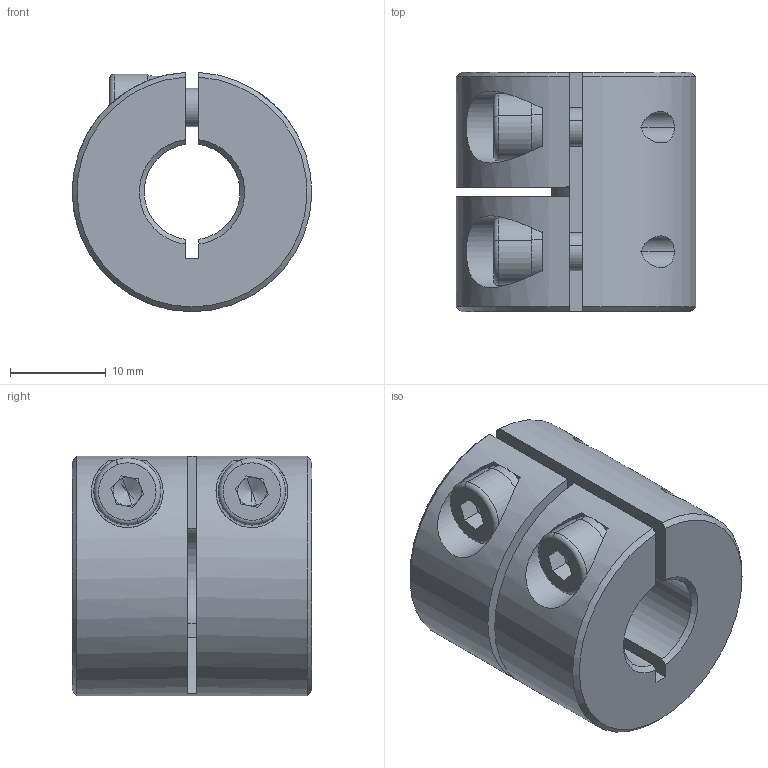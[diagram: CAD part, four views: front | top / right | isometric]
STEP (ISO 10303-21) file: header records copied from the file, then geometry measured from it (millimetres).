
FILE_DESCRIPTION (( 'STEP AP203' ), '1' );
FILE_NAME ('LL-B-D25L25-10-10.STEP', '2021-11-05T06:39:01', ( '' ), ( '' ), 'SwSTEP 2.0', 'SolidWorks 2018', '' );
FILE_SCHEMA (( 'CONFIG_CONTROL_DESIGN' ));
Length unit declared in the file: millimetre
Products named in the file (1): LL-B-D25L25-10-10
Bounding box: 24.99 x 25 x 24.98 mm (x, y, z)
Volume: 9616.6 mm3; surface area: 4917.9 mm2
Topology: 1 solids, 1 shells, 100 faces, 258 edges, 162 vertices
Faces by surface type: plane 50, cylinder 35, cone 11, torus 4
Entity records: 3335 total; most frequent: CARTESIAN_POINT 791, DIRECTION 536, ORIENTED_EDGE 508, EDGE_CURVE 254, AXIS2_PLACEMENT_3D 207, VERTEX_POINT 162, LINE 122, VECTOR 122
